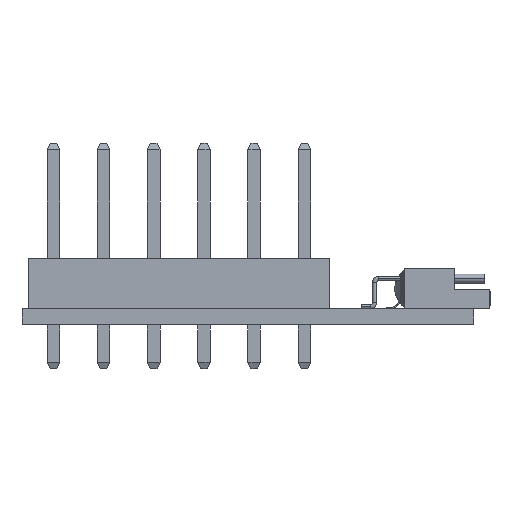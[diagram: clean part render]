
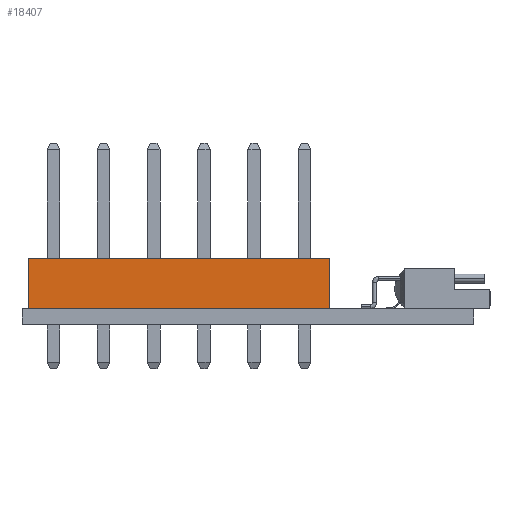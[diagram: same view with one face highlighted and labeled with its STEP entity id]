
A CAD part, left-side view. The second image highlights one B-rep face of the part: STEP entity #18407.
In plain terms, the highlighted planar face has unit normal (-1, 0, 0) as drawn and (0, 0, 1) by its records, which use the part's own axes.
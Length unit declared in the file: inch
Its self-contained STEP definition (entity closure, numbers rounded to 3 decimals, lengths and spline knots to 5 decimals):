
#25 = CARTESIAN_POINT ( 'NONE',  ( -0.3, 0.1, 0.095 ) ) ;
#505 = EDGE_CURVE ( 'NONE', #3390, #15562, #1920, .T. ) ;
#1127 = FACE_OUTER_BOUND ( 'NONE', #19874, .T. ) ;
#1920 = LINE ( 'NONE', #25, #9475 ) ;
#2329 = CARTESIAN_POINT ( 'NONE',  ( 0.3, 0.1, 0.095 ) ) ;
#3157 = CARTESIAN_POINT ( 'NONE',  ( 0.3, 0., 0.095 ) ) ;
#3390 = VERTEX_POINT ( 'NONE', #15964 ) ;
#3528 = DIRECTION ( 'NONE',  ( 0., -1., 0. ) ) ;
#4240 = DIRECTION ( 'NONE',  ( 0., -1., 0. ) ) ;
#4670 = DIRECTION ( 'NONE',  ( 1., 0., 0. ) ) ;
#6844 = EDGE_CURVE ( 'NONE', #18888, #15310, #7483, .T. ) ;
#6860 = ORIENTED_EDGE ( 'NONE', *, *, #505, .F. ) ;
#6975 = VECTOR ( 'NONE', #4240, 39.37008 ) ;
#7483 = LINE ( 'NONE', #19542, #10158 ) ;
#8253 = EDGE_CURVE ( 'NONE', #15562, #15310, #17288, .T. ) ;
#8874 = ORIENTED_EDGE ( 'NONE', *, *, #9348, .T. ) ;
#9064 = CARTESIAN_POINT ( 'NONE',  ( 0.3, 0.1, 0.095 ) ) ;
#9312 = VECTOR ( 'NONE', #3528, 39.37008 ) ;
#9348 = EDGE_CURVE ( 'NONE', #3390, #18888, #11866, .T. ) ;
#9475 = VECTOR ( 'NONE', #13971, 39.37008 ) ;
#10158 = VECTOR ( 'NONE', #4670, 39.37008 ) ;
#10754 = DIRECTION ( 'NONE',  ( -1., 0., 0. ) ) ;
#11866 = LINE ( 'NONE', #17978, #6975 ) ;
#13458 = PLANE ( 'NONE',  #16868 ) ;
#13971 = DIRECTION ( 'NONE',  ( 1., 0., 0. ) ) ;
#15257 = CARTESIAN_POINT ( 'NONE',  ( -0.3, 0.1, 0.095 ) ) ;
#15310 = VERTEX_POINT ( 'NONE', #3157 ) ;
#15562 = VERTEX_POINT ( 'NONE', #9064 ) ;
#15964 = CARTESIAN_POINT ( 'NONE',  ( -0.3, 0.1, 0.095 ) ) ;
#16868 = AXIS2_PLACEMENT_3D ( 'NONE', #15257, #18268, #10754 ) ;
#17092 = ORIENTED_EDGE ( 'NONE', *, *, #8253, .F. ) ;
#17288 = LINE ( 'NONE', #2329, #9312 ) ;
#17978 = CARTESIAN_POINT ( 'NONE',  ( -0.3, 0.1, 0.095 ) ) ;
#18268 = DIRECTION ( 'NONE',  ( 0., 0., -1. ) ) ;
#18407 = ADVANCED_FACE ( 'NONE', ( #1127 ), #13458, .F. ) ;
#18583 = ORIENTED_EDGE ( 'NONE', *, *, #6844, .T. ) ;
#18888 = VERTEX_POINT ( 'NONE', #19685 ) ;
#19542 = CARTESIAN_POINT ( 'NONE',  ( -0.3, 0., 0.095 ) ) ;
#19685 = CARTESIAN_POINT ( 'NONE',  ( -0.3, 0., 0.095 ) ) ;
#19874 = EDGE_LOOP ( 'NONE', ( #18583, #17092, #6860, #8874 ) ) ;
